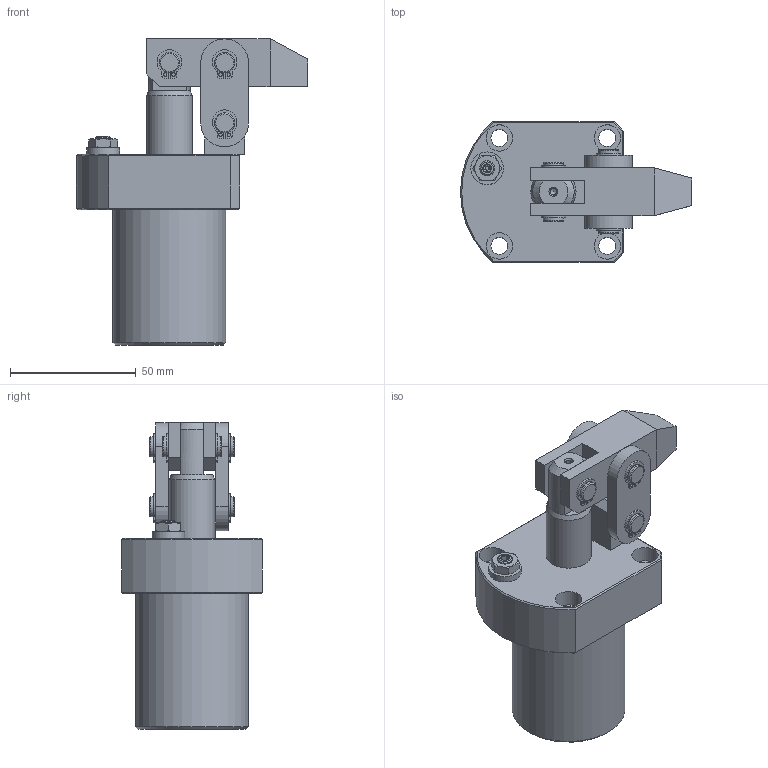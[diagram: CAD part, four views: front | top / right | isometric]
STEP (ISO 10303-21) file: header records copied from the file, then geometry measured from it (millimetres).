
FILE_DESCRIPTION(/* description */ ('Unknown'),/* implementation_level */ '2;1');
FILE_NAME(/* name */ 'HLB-FCM25-A',/* time_stamp */ '2025-05-08T15:22:33+08:00',/* author */ ('Unknown'),/* organization */ ('Unknown'),/* preprocessor_version */ 'ST-DEVELOPER v16.7',/* originating_system */ 'DEX',/* authorisation */ $);
FILE_SCHEMA (('AUTOMOTIVE_DESIGN {1 0 10303 214 3 1 1}'));
Length unit declared in the file: millimetre
Products named in the file (8): HLB-FCM25-A; HLB-FCM25-CYLINDER; HLB-25-ｹﾔefs; HLB-25-A; HLB-2502-AXLE CENTRE; HLB-25-Cｦｩ｣迺ｰ; HLB-25-PINµu; HLB-25-PINªø-
Assembly tree (14 placements, depth 2):
  HLB-FCM25-A
    HLB-FCM25-CYLINDER
    HLB-25-ｹﾔefs  x2
    HLB-25-A
    HLB-2502-AXLE CENTRE
    HLB-25-Cｦｩ｣迺ｰ  x6
    HLB-25-PINµu
    HLB-25-PINªø-  x2
Bounding box: 92 x 56 x 122 mm (x, y, z)
Volume: 185227.8 mm3; surface area: 47507.7 mm2
Topology: 14 solids, 14 shells, 287 faces, 666 edges, 437 vertices
Faces by surface type: plane 126, cylinder 115, cone 26, bspline 12, torus 8
Full cylindrical faces by diameter (mm): 1.4 x12, 2 x2, 2.6 x1, 4.1 x2, 6 x1, 6.8 x4, 7.5 x6, 8 x18, 10 x2, 10.5 x4, 13 x1, 18 x2, 25 x2, 45 x1
Entity records: 5186 total; most frequent: CARTESIAN_POINT 1137, DIRECTION 791, ORIENTED_EDGE 674, EDGE_CURVE 337, AXIS2_PLACEMENT_3D 333, FACE_BOUND 298, EDGE_LOOP 297, VERTEX_POINT 251
